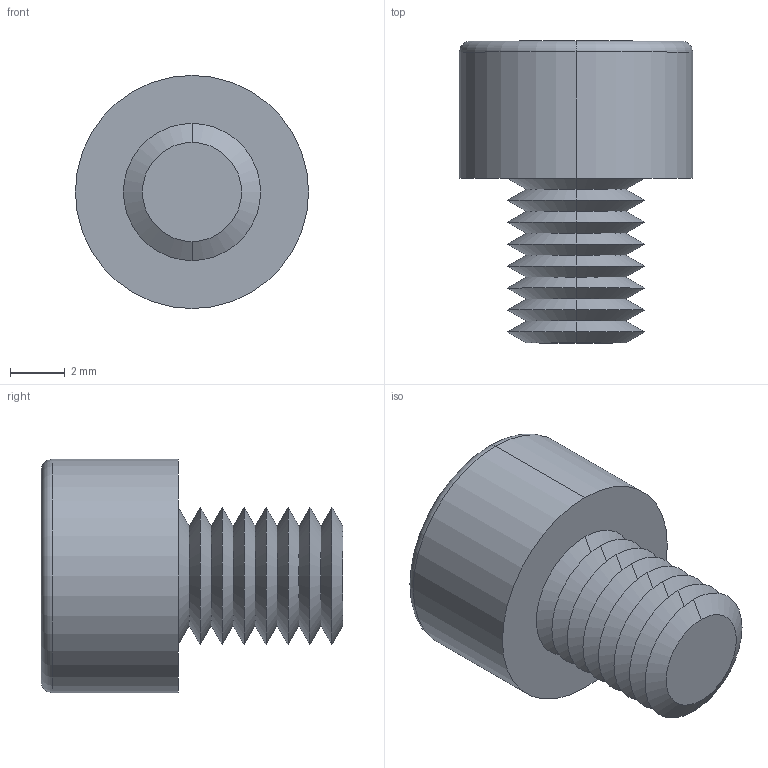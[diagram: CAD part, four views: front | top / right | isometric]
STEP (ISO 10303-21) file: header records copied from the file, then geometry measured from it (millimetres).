
FILE_DESCRIPTION (( 'STEP AP203' ), '1' );
FILE_NAME ('91N.050.0060.step', '2025-05-20T08:51:24', ( '' ), ( '' ), 'SwSTEP 2.0', 'SolidWorks 2019', '' );
FILE_SCHEMA (( 'CONFIG_CONTROL_DESIGN' ));
Length unit declared in the file: millimetre
Products named in the file (1): 91N.050.0060
Bounding box: 8.5 x 11 x 8.5 mm (x, y, z)
Volume: 310.6 mm3; surface area: 452.1 mm2
Topology: 1 solids, 1 shells, 58 faces, 115 edges, 59 vertices
Faces by surface type: cone 39, plane 15, cylinder 2, torus 2
Entity records: 1528 total; most frequent: DIRECTION 277, CARTESIAN_POINT 258, ORIENTED_EDGE 226, EDGE_CURVE 113, AXIS2_PLACEMENT_3D 112, EDGE_LOOP 60, VERTEX_POINT 59, FACE_OUTER_BOUND 58
